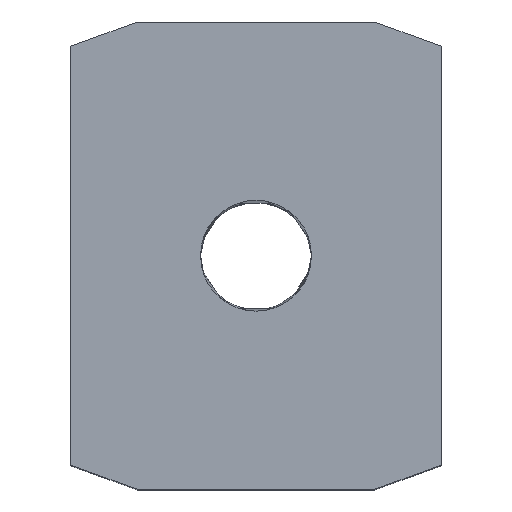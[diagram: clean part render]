
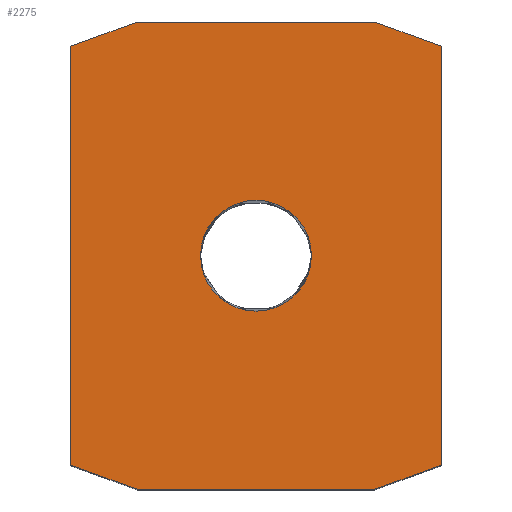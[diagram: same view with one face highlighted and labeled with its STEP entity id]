
A CAD part, top view. The second image highlights one B-rep face of the part: STEP entity #2275.
In plain terms, the highlighted planar face has unit normal (0, 0, 1).
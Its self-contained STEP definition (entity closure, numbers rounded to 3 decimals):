
#72=CARTESIAN_POINT('',(7.475,0.0,50.0));
#73=VERTEX_POINT('',#72);
#107=CARTESIAN_POINT('',(-7.475,0.,50.0));
#108=VERTEX_POINT('',#107);
#115=CARTESIAN_POINT('',(0.0,0.0,50.0));
#116=DIRECTION('',(0.0,0.0,-1.0));
#117=DIRECTION('',(1.0,0.0,0.0));
#118=AXIS2_PLACEMENT_3D('',#115,#116,#117);
#119=CIRCLE('',#118,7.475);
#120=EDGE_CURVE('',#73,#108,#119,.T.);
#1955=CARTESIAN_POINT('',(0.0,0.0,50.0));
#1956=DIRECTION('',(0.0,0.0,-1.0));
#1957=DIRECTION('',(1.0,0.0,0.0));
#1958=AXIS2_PLACEMENT_3D('',#1955,#1956,#1957);
#1959=CIRCLE('',#1958,7.475);
#1960=EDGE_CURVE('',#108,#73,#1959,.T.);
#1973=CARTESIAN_POINT('',(16.0,31.5,50.0));
#1974=VERTEX_POINT('',#1973);
#1975=CARTESIAN_POINT('',(25.0,28.224,50.0));
#1976=VERTEX_POINT('',#1975);
#1977=CARTESIAN_POINT('',(16.0,31.5,50.0));
#1978=DIRECTION('',(0.94,-0.342,0.0));
#1979=VECTOR('',#1978,9.578);
#1980=LINE('',#1977,#1979);
#1981=EDGE_CURVE('',#1974,#1976,#1980,.T.);
#2013=CARTESIAN_POINT('',(25.0,-28.224,50.0));
#2014=VERTEX_POINT('',#2013);
#2015=CARTESIAN_POINT('',(25.0,28.224,50.0));
#2016=DIRECTION('',(0.0,-1.0,0.0));
#2017=VECTOR('',#2016,56.449);
#2018=LINE('',#2015,#2017);
#2019=EDGE_CURVE('',#1976,#2014,#2018,.T.);
#2064=CARTESIAN_POINT('',(16.,-31.5,50.0));
#2065=VERTEX_POINT('',#2064);
#2066=CARTESIAN_POINT('',(25.0,-28.224,50.0));
#2067=DIRECTION('',(-0.94,-0.342,0.0));
#2068=VECTOR('',#2067,9.578);
#2069=LINE('',#2066,#2068);
#2070=EDGE_CURVE('',#2014,#2065,#2069,.T.);
#2095=CARTESIAN_POINT('',(-16.,-31.5,50.0));
#2096=VERTEX_POINT('',#2095);
#2097=CARTESIAN_POINT('',(16.,-31.5,50.0));
#2098=DIRECTION('',(-1.0,0.0,0.0));
#2099=VECTOR('',#2098,32.);
#2100=LINE('',#2097,#2099);
#2101=EDGE_CURVE('',#2065,#2096,#2100,.T.);
#2126=CARTESIAN_POINT('',(-25.0,-28.224,50.0));
#2127=VERTEX_POINT('',#2126);
#2128=CARTESIAN_POINT('',(-16.,-31.5,50.0));
#2129=DIRECTION('',(-0.94,0.342,0.0));
#2130=VECTOR('',#2129,9.578);
#2131=LINE('',#2128,#2130);
#2132=EDGE_CURVE('',#2096,#2127,#2131,.T.);
#2157=CARTESIAN_POINT('',(-25.0,28.224,50.0));
#2158=VERTEX_POINT('',#2157);
#2159=CARTESIAN_POINT('',(-25.0,-28.224,50.0));
#2160=DIRECTION('',(0.0,1.0,0.0));
#2161=VECTOR('',#2160,56.449);
#2162=LINE('',#2159,#2161);
#2163=EDGE_CURVE('',#2127,#2158,#2162,.T.);
#2208=CARTESIAN_POINT('',(-16.,31.5,50.0));
#2209=VERTEX_POINT('',#2208);
#2210=CARTESIAN_POINT('',(-25.0,28.224,50.0));
#2211=DIRECTION('',(0.94,0.342,0.0));
#2212=VECTOR('',#2211,9.578);
#2213=LINE('',#2210,#2212);
#2214=EDGE_CURVE('',#2158,#2209,#2213,.T.);
#2239=CARTESIAN_POINT('',(-16.,31.5,50.0));
#2240=DIRECTION('',(1.0,0.0,0.0));
#2241=VECTOR('',#2240,32.0);
#2242=LINE('',#2239,#2241);
#2243=EDGE_CURVE('',#2209,#1974,#2242,.T.);
#2256=CARTESIAN_POINT('',(0.,0.,50.0));
#2257=DIRECTION('',(0.0,0.0,1.0));
#2258=DIRECTION('',(1.0,0.0,0.0));
#2259=AXIS2_PLACEMENT_3D('',#2256,#2257,#2258);
#2260=PLANE('',#2259);
#2261=ORIENTED_EDGE('',*,*,#1981,.F.);
#2262=ORIENTED_EDGE('',*,*,#2243,.F.);
#2263=ORIENTED_EDGE('',*,*,#2214,.F.);
#2264=ORIENTED_EDGE('',*,*,#2163,.F.);
#2265=ORIENTED_EDGE('',*,*,#2132,.F.);
#2266=ORIENTED_EDGE('',*,*,#2101,.F.);
#2267=ORIENTED_EDGE('',*,*,#2070,.F.);
#2268=ORIENTED_EDGE('',*,*,#2019,.F.);
#2269=EDGE_LOOP('',(#2261,#2262,#2263,#2264,#2265,#2266,#2267,#2268));
#2270=FACE_OUTER_BOUND('',#2269,.T.);
#2271=ORIENTED_EDGE('',*,*,#120,.T.);
#2272=ORIENTED_EDGE('',*,*,#1960,.T.);
#2273=EDGE_LOOP('',(#2271,#2272));
#2274=FACE_BOUND('',#2273,.T.);
#2275=ADVANCED_FACE('',(#2270,#2274),#2260,.T.);
